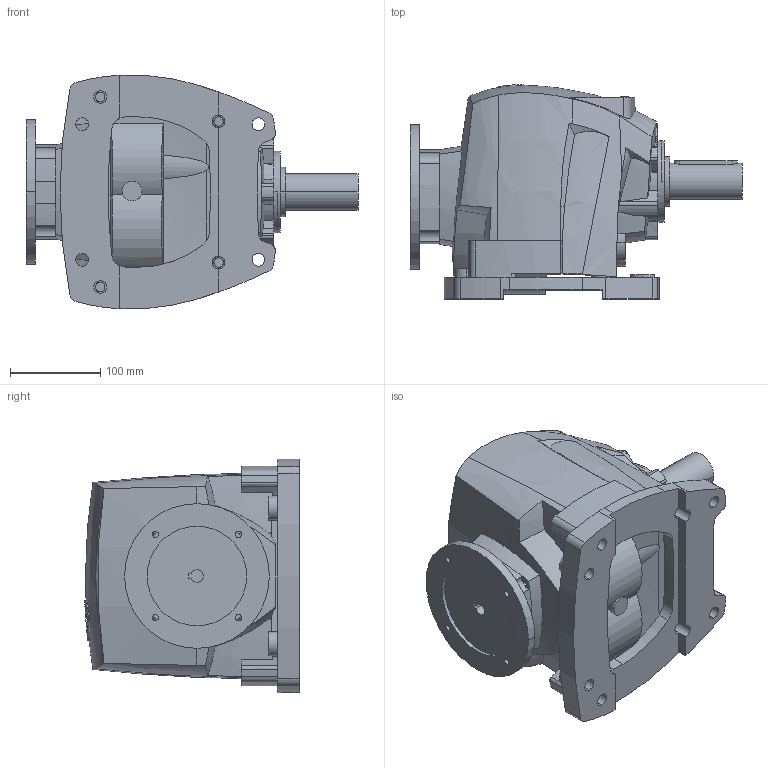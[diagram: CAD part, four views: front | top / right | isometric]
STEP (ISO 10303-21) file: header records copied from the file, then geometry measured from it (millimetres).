
FILE_DESCRIPTION((''),'2;1');
FILE_NAME('R35_SW_PAM71_D2','2013-11-05T',('Luca'),(''),'PRO/ENGINEER BY PARAMETRIC TECHNOLOGY CORPORATION, 2008230','PRO/ENGINEER BY PARAMETRIC TECHNOLOGY CORPORATION, 2008230','');
FILE_SCHEMA(('CONFIG_CONTROL_DESIGN'));
Length unit declared in the file: millimetre
Products named in the file (1): R35_SW_PAM71_D2
Bounding box: 367.06 x 236.95 x 257.96 mm (x, y, z)
Volume: 8260.3 mm3; surface area: 422183.7 mm2
Topology: 1 solids, 6 shells, 511 faces, 1406 edges, 942 vertices
Faces by surface type: cylinder 196, plane 127, extrusion 101, bspline 64, cone 14, torus 9
Entity records: 25028 total; most frequent: CARTESIAN_POINT 12995, ORIENTED_EDGE 2806, DIRECTION 1929, EDGE_CURVE 1403, VERTEX_POINT 942, B_SPLINE_CURVE_WITH_KNOTS 693, AXIS2_PLACEMENT_3D 671, VECTOR 587
